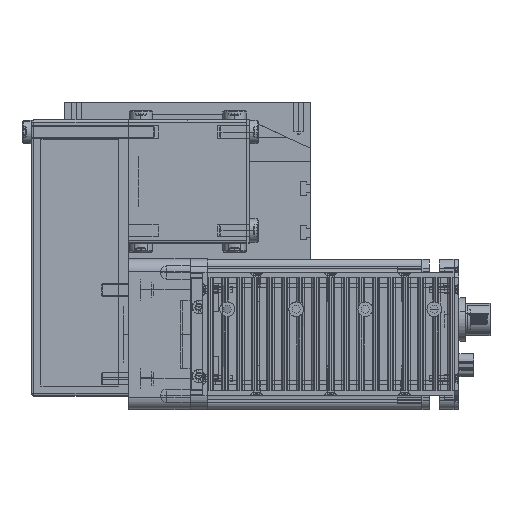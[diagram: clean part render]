
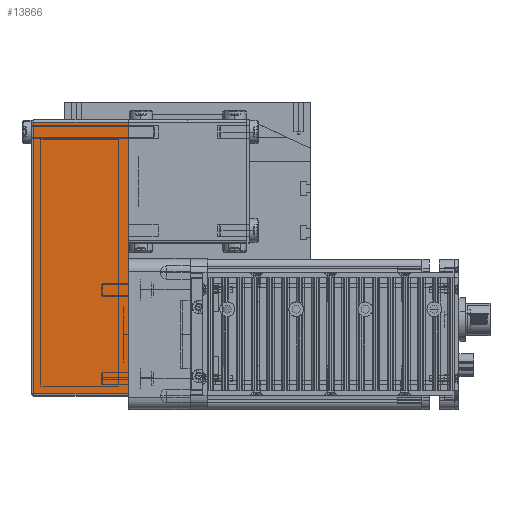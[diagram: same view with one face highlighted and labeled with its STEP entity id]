
A CAD part, top view. The second image highlights one B-rep face of the part: STEP entity #13866.
In plain terms, the highlighted planar face has unit normal (0, 0, 1) as drawn and (0, 1, 0) by its records, which use the part's own axes.
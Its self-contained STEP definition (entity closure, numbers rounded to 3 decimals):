
#6053 = ORIENTED_EDGE ( 'NONE', *, *, #6392, .F. ) ;
#6124 = EDGE_LOOP ( 'NONE', ( #6234, #6053, #6182, #13532 ) ) ;
#6182 = ORIENTED_EDGE ( 'NONE', *, *, #10189, .F. ) ;
#6234 = ORIENTED_EDGE ( 'NONE', *, *, #9465, .F. ) ;
#6284 = EDGE_CURVE ( 'NONE', #10190, #9279, #29731, .T. ) ;
#6392 = EDGE_CURVE ( 'NONE', #10147, #9342, #30169, .T. ) ;
#9279 = VERTEX_POINT ( 'NONE', #36475 ) ;
#9342 = VERTEX_POINT ( 'NONE', #36568 ) ;
#9465 = EDGE_CURVE ( 'NONE', #9342, #9279, #36813, .T. ) ;
#10147 = VERTEX_POINT ( 'NONE', #38303 ) ;
#10189 = EDGE_CURVE ( 'NONE', #10190, #10147, #38413, .T. ) ;
#10190 = VERTEX_POINT ( 'NONE', #38411 ) ;
#13532 = ORIENTED_EDGE ( 'NONE', *, *, #6284, .T. ) ;
#13866 = ADVANCED_FACE ( 'NONE', ( #42098 ), #42145, .F. ) ;
#29720 = DIRECTION ( 'NONE',  ( -1., 0., 0. ) ) ;
#29721 = VECTOR ( 'NONE', #29720, 1000. ) ;
#29723 = CARTESIAN_POINT ( 'NONE',  ( -50., 25., 0. ) ) ;
#29731 = LINE ( 'NONE', #29723, #29721 ) ;
#30070 = VECTOR ( 'NONE', #30137, 1000. ) ;
#30137 = DIRECTION ( 'NONE',  ( -1., 0., 0. ) ) ;
#30168 = CARTESIAN_POINT ( 'NONE',  ( -50., 25., 38.5 ) ) ;
#30169 = LINE ( 'NONE', #30168, #30070 ) ;
#36475 = CARTESIAN_POINT ( 'NONE',  ( -49., 25., 0. ) ) ;
#36568 = CARTESIAN_POINT ( 'NONE',  ( -49., 25., 38.5 ) ) ;
#36808 = DIRECTION ( 'NONE',  ( 0., 0., -1. ) ) ;
#36810 = VECTOR ( 'NONE', #36808, 1000. ) ;
#36813 = LINE ( 'NONE', #36814, #36810 ) ;
#36814 = CARTESIAN_POINT ( 'NONE',  ( -49., 25., 39.5 ) ) ;
#38303 = CARTESIAN_POINT ( 'NONE',  ( 61., 25., 38.5 ) ) ;
#38407 = DIRECTION ( 'NONE',  ( 0., 0., 1. ) ) ;
#38408 = VECTOR ( 'NONE', #38407, 1000. ) ;
#38409 = CARTESIAN_POINT ( 'NONE',  ( 61., 25., 39.5 ) ) ;
#38411 = CARTESIAN_POINT ( 'NONE',  ( 61., 25., 0. ) ) ;
#38413 = LINE ( 'NONE', #38409, #38408 ) ;
#42098 = FACE_OUTER_BOUND ( 'NONE', #6124, .T. ) ;
#42125 = CARTESIAN_POINT ( 'NONE',  ( -50., 25., 39.5 ) ) ;
#42126 = AXIS2_PLACEMENT_3D ( 'NONE', #42125, #42144, #42128 ) ;
#42128 = DIRECTION ( 'NONE',  ( 0., 0., -1. ) ) ;
#42144 = DIRECTION ( 'NONE',  ( 0., -1., 0. ) ) ;
#42145 = PLANE ( 'NONE',  #42126 ) ;
